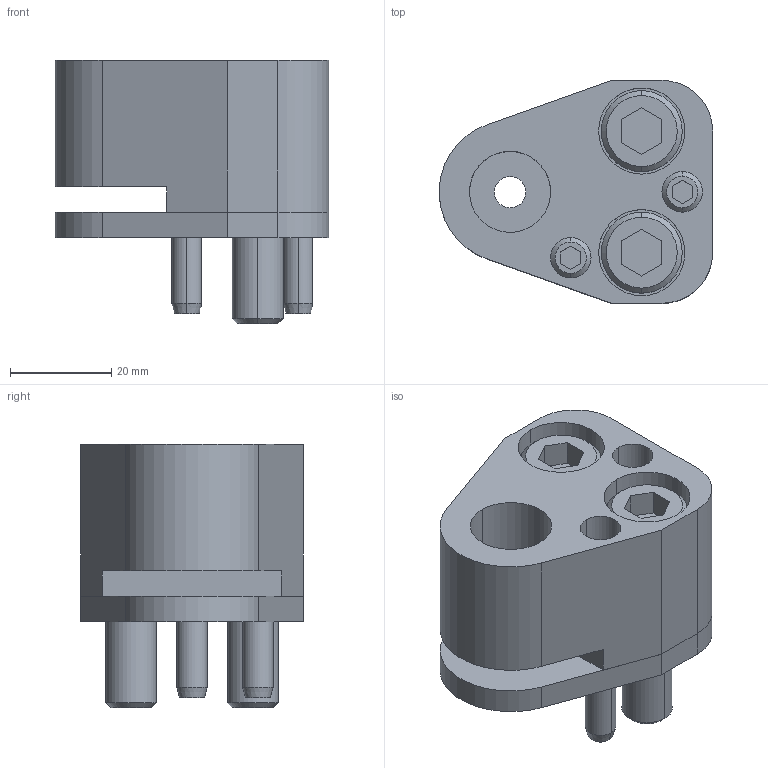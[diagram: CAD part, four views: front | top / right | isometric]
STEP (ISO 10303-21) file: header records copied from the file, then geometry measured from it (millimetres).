
FILE_DESCRIPTION(/* description */ (''),/* implementation_level */ '2;1');
FILE_NAME(/* name */ '3d_dp-fp16_02828_r00.stp',/* time_stamp */ '2011-01-10T14:15:55+09:00',/* author */ ('MISUMI'),/* organization */ (''),/* preprocessor_version */ 'ST-DEVELOPER v11',/* originating_system */ 'UGS - NX 5.0',/* authorisation */ '');
FILE_SCHEMA (('CONFIG_CONTROL_DESIGN'));
Length unit declared in the file: millimetre
Products named in the file (1): 3d_dp-fp16_02828_r00
Bounding box: 53.95 x 44 x 52 mm (x, y, z)
Volume: 56940.8 mm3; surface area: 23936.8 mm2
Topology: 8 solids, 8 shells, 154 faces, 350 edges, 225 vertices
Faces by surface type: plane 68, cylinder 60, cone 26
Entity records: 4496 total; most frequent: DIRECTION 802, CARTESIAN_POINT 783, ORIENTED_EDGE 700, EDGE_CURVE 350, AXIS2_PLACEMENT_3D 302, VERTEX_POINT 225, LINE 198, VECTOR 198
